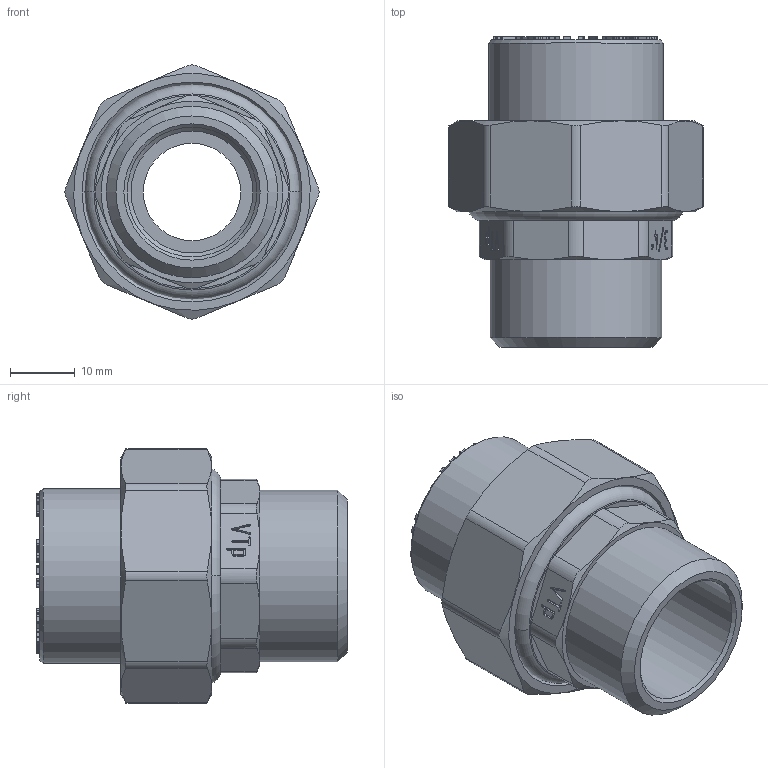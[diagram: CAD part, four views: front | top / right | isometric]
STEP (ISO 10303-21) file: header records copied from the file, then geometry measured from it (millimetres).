
FILE_DESCRIPTION(('STEP AP203'), '1');
FILE_NAME('VTp.761.0.02005', '', ('UNSPECIFIED'), ('UNSPECIFIED'), 'C3D Converter', 'C3D Toolkit', '');
FILE_SCHEMA(('CONFIG_CONTROL_DESIGN'));
Length unit declared in the file: millimetre
Products named in the file (1): ВР.302634.098.000 СБ
Bounding box: 39.18 x 47.9 x 39.18 mm (x, y, z)
Volume: 21240.1 mm3; surface area: 13941.8 mm2
Topology: 4 solids, 4 shells, 917 faces, 2525 edges, 1667 vertices
Faces by surface type: extrusion 493, plane 362, cylinder 29, cone 28, torus 5
Full cylindrical faces by diameter (mm): 15 x1, 18.8 x1, 20 x1, 22.6 x2, 26.441 x1, 27 x1, 28 x1, 28.2 x2, 30 x1, 30.292 x1, 33.2 x1
Entity records: 31016 total; most frequent: CARTESIAN_POINT 9826, ORIENTED_EDGE 4968, DIRECTION 2864, EDGE_CURVE 2484, VECTOR 1838, VERTEX_POINT 1660, B_SPLINE_CURVE_WITH_KNOTS 1537, LINE 1345
